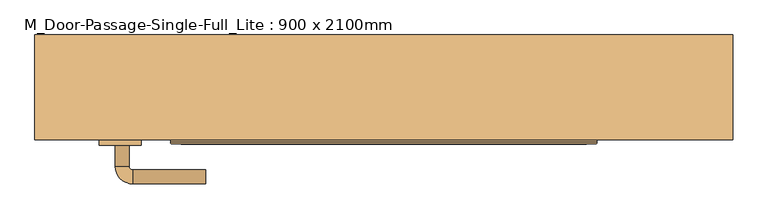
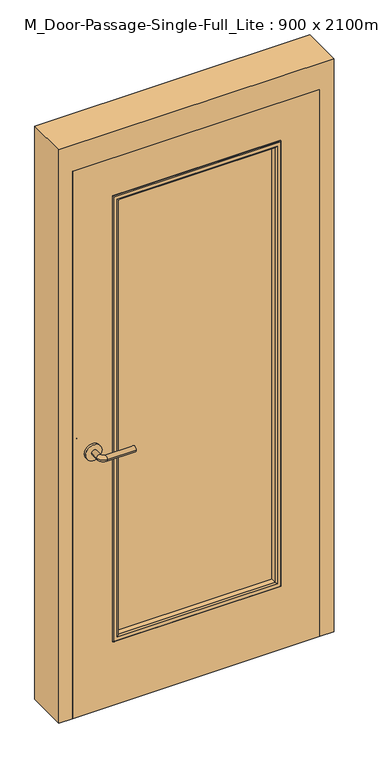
"""IFC4 building model written with IfcOpenShell, lengths in millimetres: door geometry, M_Door-Passage-Single-Full_Lite : 900 x 2100mm."""

from ifc_helpers import new_model, si_unit, point, frame, frame_2d, origin, place, context, project, spatial, polyline, circle_curve, ellipse_curve, trimmed, segment, composite_curve, outline, extrude, faceted_brep, source, transform, mapped, element, save
from ifc_brep_helpers import plane_surface, cylinder_surface, revolved_surface, advanced_brep


def m_door_passage_single_full_lite_900_x_2100mm_803eef12(model_context):
    return source(origin(), model_context, "Body", "SolidModel", [
        advanced_brep(
        [(-384.990625, 26.65, 1000.0), (-364.990625, 26.65, 1000.0), (-384.990625, 56.65, 1000.0), (-364.990625, 56.65, 1000.0), (-359.990625, 61.65, 1000.0), (-359.990625, 81.65, 1000.0), (-254.990625, 81.65, 1000.0), (-254.990625, 61.65, 1000.0)],
        [
            (0, 1, circle_curve(frame((-374.990625, 26.65, 1000.0), z_axis=(0.0, -1.0, 0.0), x_axis=(1.0, 0.0, 0.0)), 10.0)),
            (1, 0, circle_curve(frame((-374.990625, 26.65, 1000.0), z_axis=(0.0, -1.0, 0.0), x_axis=(1.0, 0.0, 0.0)), 10.0)),
            (0, 2),
            (2, 3, circle_curve(frame((-374.990625, 56.65, 1000.0), z_axis=(0.0, -1.0, 0.0), x_axis=(1.0, 0.0, 0.0)), 10.0)),
            (3, 1),
            (3, 2, circle_curve(frame((-374.990625, 56.65, 1000.0), z_axis=(0.0, -1.0, 0.0), x_axis=(1.0, 0.0, 0.0)), 10.0)),
            (4, 3, circle_curve(frame((-359.990625, 56.65, 1000.0), z_axis=(0.0, 0.0, 1.0), x_axis=(-1.0, 0.0, 0.0)), 5.0)),
            (2, 5, circle_curve(frame((-359.990625, 56.65, 1000.0), z_axis=(0.0, 0.0, -1.0), x_axis=(-1.0, 0.0, 0.0)), 25.0)),
            (5, 4, circle_curve(frame((-359.990625, 71.65, 1000.0), z_axis=(-1.0, 0.0, 0.0), x_axis=(0.0, -1.0, 0.0)), 10.0)),
            (4, 5, circle_curve(frame((-359.990625, 71.65, 1000.0), z_axis=(-1.0, 0.0, 0.0), x_axis=(0.0, -1.0, 0.0)), 10.0)),
            (6, 7, circle_curve(frame((-254.990625, 71.65, 1000.0), z_axis=(1.0, 0.0, 0.0), x_axis=(0.0, -1.0, 0.0)), 10.0)),
            (7, 6, circle_curve(frame((-254.990625, 71.65, 1000.0), z_axis=(1.0, 0.0, 0.0), x_axis=(0.0, -1.0, 0.0)), 10.0)),
            (5, 6),
            (7, 4),
        ],
        [
            plane_surface(frame((-374.990625, 26.65, 1000.0), z_axis=(0.0, -1.0, 0.0), x_axis=(0.0, 0.0, 1.0))),
            cylinder_surface(frame((-374.990625, 26.65, 1000.0), z_axis=(0.0, -1.0, 0.0), x_axis=(1.0, 0.0, 0.0)), 10.0),
            revolved_surface(trimmed(ellipse_curve(frame((-374.990625, 56.65, 1000.0), z_axis=(0.0, -1.0, 0.0), x_axis=(1.0, 0.0, 0.0)), 10.0, 10.0), [point((-384.990625, 56.65, 1000.0))], [point((-364.990625, 56.65, 1000.0))], True, "CARTESIAN"), (-359.990625, 56.65, 1000.0), (0.0, 0.0, -1.0)),
            revolved_surface(trimmed(ellipse_curve(frame((-374.990625, 56.65, 1000.0), z_axis=(0.0, -1.0, 0.0), x_axis=(1.0, 0.0, 0.0)), 10.0, 10.0), [point((-364.990625, 56.65, 1000.0))], [point((-384.990625, 56.65, 1000.0))], True, "CARTESIAN"), (-359.990625, 56.65, 1000.0), (0.0, 0.0, -1.0)),
            plane_surface(frame((-254.990625, 71.65, 1000.0), z_axis=(1.0, 0.0, 0.0), x_axis=(0.0, 0.0, 1.0))),
            cylinder_surface(frame((-359.990625, 71.65, 1000.0), z_axis=(-1.0, 0.0, 0.0), x_axis=(0.0, -1.0, 0.0)), 10.0),
        ],
        [
            (0, [[1, 2]]),
            (1, [[-1, 3, 4, 5]]),
            (1, [[-2, -5, 6, -3]]),
            (2, [[7, -4, 8, 9]]),
            (3, [[-8, -6, -7, 10]]),
            (4, [[11, 12]]),
            (5, [[-9, 13, -12, 14]]),
            (5, [[-10, -14, -11, -13]]),
        ],
    ),
        extrude(outline(composite_curve([segment(trimmed(circle_curve(frame_2d((1000.0, -377.490625)), 30.0), [point((1000.0, -407.490625))], [point((1000.0, -347.490625))], False, "CARTESIAN"), True, "CONTINUOUS"), segment(trimmed(circle_curve(frame_2d((1000.0, -377.490625)), 30.0), [point((1000.0, -347.490625))], [point((1000.0, -407.490625))], False, "CARTESIAN"), True, "CONTINUOUS")], self_intersect=False)), frame((0.0, 18.65, 0.0), z_axis=(0.0, 1.0, 0.0), x_axis=(0.0, 0.0, 1.0)), (0.0, 0.0, 1.0), 8.0),
        advanced_brep(
        [(-384.990625, -34.35, 1000.0), (-364.990625, -34.35, 1000.0), (-364.990625, -64.35, 1000.0), (-384.990625, -64.35, 1000.0), (-359.990625, -69.35, 1000.0), (-359.990625, -89.35, 1000.0), (-254.990625, -89.35, 1000.0), (-254.990625, -69.35, 1000.0)],
        [
            (0, 1, circle_curve(frame((-374.990625, -34.35, 1000.0), z_axis=(0.0, 1.0, 0.0), x_axis=(1.0, 0.0, 0.0)), 10.0)),
            (1, 0, circle_curve(frame((-374.990625, -34.35, 1000.0), z_axis=(0.0, 1.0, 0.0), x_axis=(1.0, 0.0, 0.0)), 10.0)),
            (1, 2),
            (2, 3, circle_curve(frame((-374.990625, -64.35, 1000.0), z_axis=(0.0, 1.0, 0.0), x_axis=(1.0, 0.0, 0.0)), 10.0)),
            (3, 0),
            (3, 2, circle_curve(frame((-374.990625, -64.35, 1000.0), z_axis=(0.0, 1.0, 0.0), x_axis=(1.0, 0.0, 0.0)), 10.0)),
            (4, 5, circle_curve(frame((-359.990625, -79.35, 1000.0), z_axis=(-1.0, 0.0, 0.0), x_axis=(0.0, 1.0, 0.0)), 10.0)),
            (5, 3, circle_curve(frame((-359.990625, -64.35, 1000.0), z_axis=(0.0, 0.0, -1.0), x_axis=(-1.0, 0.0, 0.0)), 25.0)),
            (2, 4, circle_curve(frame((-359.990625, -64.35, 1000.0), z_axis=(0.0, 0.0, 1.0), x_axis=(-1.0, 0.0, 0.0)), 5.0)),
            (5, 4, circle_curve(frame((-359.990625, -79.35, 1000.0), z_axis=(-1.0, 0.0, 0.0), x_axis=(0.0, 1.0, 0.0)), 10.0)),
            (6, 7, circle_curve(frame((-254.990625, -79.35, 1000.0), z_axis=(1.0, 0.0, 0.0), x_axis=(0.0, 1.0, 0.0)), 10.0)),
            (7, 6, circle_curve(frame((-254.990625, -79.35, 1000.0), z_axis=(1.0, 0.0, 0.0), x_axis=(0.0, 1.0, 0.0)), 10.0)),
            (4, 7),
            (6, 5),
        ],
        [
            plane_surface(frame((-374.990625, -34.35, 1000.0), z_axis=(0.0, 1.0, 0.0), x_axis=(0.0, 0.0, 1.0))),
            cylinder_surface(frame((-374.990625, -34.35, 1000.0), z_axis=(0.0, 1.0, 0.0), x_axis=(1.0, 0.0, 0.0)), 10.0),
            revolved_surface(trimmed(ellipse_curve(frame((-374.990625, -64.35, 1000.0), z_axis=(0.0, -1.0, 0.0), x_axis=(1.0, 0.0, 0.0)), 10.0, 10.0), [point((-384.990625, -64.35, 1000.0))], [point((-364.990625, -64.35, 1000.0))], True, "CARTESIAN"), (-359.990625, -64.35, 1000.0), (0.0, 0.0, -1.0)),
            revolved_surface(trimmed(ellipse_curve(frame((-374.990625, -64.35, 1000.0), z_axis=(0.0, -1.0, 0.0), x_axis=(1.0, 0.0, 0.0)), 10.0, 10.0), [point((-364.990625, -64.35, 1000.0))], [point((-384.990625, -64.35, 1000.0))], True, "CARTESIAN"), (-359.990625, -64.35, 1000.0), (0.0, 0.0, -1.0)),
            plane_surface(frame((-254.990625, -79.35, 1000.0), z_axis=(1.0, 0.0, 0.0), x_axis=(0.0, 0.0, 1.0))),
            cylinder_surface(frame((-359.990625, -79.35, 1000.0), z_axis=(-1.0, 0.0, 0.0), x_axis=(0.0, 1.0, 0.0)), 10.0),
        ],
        [
            (0, [[1, 2]]),
            (1, [[3, 4, 5, -2]]),
            (1, [[-5, 6, -3, -1]]),
            (2, [[7, 8, -4, 9]]),
            (3, [[10, -9, -6, -8]]),
            (4, [[11, 12]]),
            (5, [[13, -11, 14, -7]]),
            (5, [[-14, -12, -13, -10]]),
        ],
    ),
        extrude(outline(composite_curve([segment(trimmed(circle_curve(frame_2d((1000.0, -377.490625)), 30.0), [point((1000.0, -407.490625))], [point((1000.0, -347.490625))], False, "CARTESIAN"), True, "CONTINUOUS"), segment(trimmed(circle_curve(frame_2d((1000.0, -377.490625)), 30.0), [point((1000.0, -347.490625))], [point((1000.0, -407.490625))], False, "CARTESIAN"), True, "CONTINUOUS")], self_intersect=False)), frame((0.0, -34.35, 0.0), z_axis=(0.0, 1.0, 0.0), x_axis=(0.0, 0.0, 1.0)), (0.0, 0.0, 1.0), 8.0),
        extrude(outline(polyline([(297.6, -1.35), (297.6, -6.35), (-297.6, -6.35), (-297.6, -1.35), (297.6, -1.35)])), frame((0.0, 0.0, 254.0), z_axis=(0.0, 0.0, 1.0), x_axis=(1.0, 0.0, 0.0)), (0.0, 0.0, 1.0), 1693.6),
        faceted_brep([(450.0, 23.4125, 0.0), (434.125, 23.4125, 0.0), (434.125, 74.4375, 0.0), (450.0, 74.4375, 0.0), (450.0, 123.65, 0.0), (500.0, 123.65, 0.0), (500.0, -26.35, 0.0), (450.0, -26.35, 0.0), (450.0, -26.35, 2100.0), (450.0, 23.4125, 2100.0), (500.0, -26.35, 2200.0), (-500.0, -26.35, 2200.0), (-500.0, -26.35, 0.0), (-450.0, -26.35, 0.0), (-450.0, -26.35, 2100.0), (500.0, 123.65, 2200.0), (450.0, 123.65, 2100.0), (-450.0, 123.65, 2100.0), (-450.0, 123.65, 0.0), (-500.0, 123.65, 0.0), (-500.0, 123.65, 2200.0), (450.0, 74.4375, 2100.0), (434.125, 74.4375, 2084.125), (-434.125, 74.4375, 2084.125), (-434.125, 74.4375, 0.0), (-450.0, 74.4375, 0.0), (-450.0, 74.4375, 2100.0), (434.125, 23.4125, 2084.125), (-450.0, 23.4125, 2100.0), (-450.0, 23.4125, 0.0), (-434.125, 23.4125, 0.0), (-434.125, 23.4125, 2084.125)], [[[0, 1, 2, 3, 4, 5, 6, 7]], [[7, 8, 9, 0]], [[6, 10, 11, 12, 13, 14, 8, 7]], [[5, 15, 10, 6]], [[4, 16, 17, 18, 19, 20, 15, 5]], [[3, 21, 16, 4]], [[2, 22, 23, 24, 25, 26, 21, 3]], [[1, 27, 22, 2]], [[0, 9, 28, 29, 30, 31, 27, 1]], [[8, 14, 28, 9]], [[16, 21, 26, 17]], [[22, 27, 31, 23]], [[12, 19, 18, 25, 24, 30, 29, 13]], [[13, 29, 28, 14]], [[11, 20, 19, 12]], [[17, 26, 25, 18]], [[23, 31, 30, 24]], [[15, 20, 11, 10]]]),
        extrude(outline(polyline([(2100.0, -450.0), (0.0, -450.0), (0.0, 450.0), (2100.0, 450.0), (2100.0, -450.0)]), holes=[polyline([(1947.6, -297.6), (1947.6, 297.6), (254.0, 297.6), (254.0, -297.6), (1947.6, -297.6)])]), frame((0.0, -26.35, 0.0), z_axis=(0.0, 1.0, 0.0), x_axis=(0.0, 0.0, 1.0)), (0.0, 0.0, 1.0), 45.0),
        advanced_brep(
        [(-297.6, -6.35, 1947.6), (-297.6, -6.35, 254.0), (-297.6, -26.35, 254.0), (-297.6, -26.35, 1947.6), (-285.6, -27.35, 1935.6), (-285.6, -27.35, 266.0), (-285.6, -6.35, 266.0), (-285.6, -6.35, 1935.6), (-290.6, -32.35, 1940.6), (-290.6, -32.35, 261.0), (-305.6, -30.35, 1955.6), (-305.6, -30.35, 246.0), (-303.6, -32.35, 248.0), (-303.6, -32.35, 1953.6), (-305.6, -26.35, 1955.6), (-305.6, -26.35, 246.0), (297.6, -6.35, 254.0), (297.6, -26.35, 254.0), (285.6, -27.35, 266.0), (285.6, -6.35, 266.0), (290.6, -32.35, 261.0), (305.6, -30.35, 246.0), (303.6, -32.35, 248.0), (305.6, -26.35, 246.0), (297.6, -6.35, 1947.6), (297.6, -26.35, 1947.6), (285.6, -27.35, 1935.6), (285.6, -6.35, 1935.6), (290.6, -32.35, 1940.6), (305.6, -30.35, 1955.6), (303.6, -32.35, 1953.6), (305.6, -26.35, 1955.6)],
        [
            (0, 1),
            (1, 2),
            (2, 3),
            (3, 0),
            (4, 5),
            (5, 6),
            (6, 7),
            (7, 4),
            (8, 9),
            (9, 5, ellipse_curve(frame((-290.6, -27.35, 261.0), z_axis=(-0.7071067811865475, 0.0, 0.7071067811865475), x_axis=(0.7071067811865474, 0.0, 0.7071067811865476)), 7.0710678, 5.0)),
            (4, 8, ellipse_curve(frame((-290.6, -27.35, 1940.6), z_axis=(-0.7071067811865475, 0.0, -0.7071067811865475), x_axis=(-0.7071067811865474, 0.0, 0.7071067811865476)), 7.0710678, 5.0)),
            (10, 11),
            (11, 12, ellipse_curve(frame((-303.6, -30.35, 248.0), z_axis=(-0.7071067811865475, 0.0, 0.7071067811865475), x_axis=(0.7071067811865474, 0.0, 0.7071067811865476)), 2.8284271, 2.0)),
            (12, 13),
            (13, 10, ellipse_curve(frame((-303.6, -30.35, 1953.6), z_axis=(-0.7071067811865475, 0.0, -0.7071067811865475), x_axis=(-0.7071067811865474, 0.0, 0.7071067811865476)), 2.8284271, 2.0)),
            (14, 15),
            (15, 11),
            (10, 14),
            (1, 16),
            (16, 17),
            (17, 2),
            (5, 18),
            (18, 19),
            (19, 6),
            (9, 20),
            (20, 18, ellipse_curve(frame((290.6, -27.35, 261.0), z_axis=(-0.7071067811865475, 0.0, -0.7071067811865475), x_axis=(-0.7071067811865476, 0.0, 0.7071067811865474)), 7.0710678, 5.0)),
            (11, 21),
            (21, 22, ellipse_curve(frame((303.6, -30.35, 248.0), z_axis=(-0.7071067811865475, 0.0, -0.7071067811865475), x_axis=(-0.7071067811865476, 0.0, 0.7071067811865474)), 2.8284271, 2.0)),
            (22, 12),
            (15, 23),
            (23, 21),
            (16, 24),
            (24, 25),
            (25, 17),
            (18, 26),
            (26, 27),
            (27, 19),
            (20, 28),
            (28, 26, ellipse_curve(frame((290.6, -27.35, 1940.6), z_axis=(0.7071067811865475, 0.0, -0.7071067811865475), x_axis=(-0.7071067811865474, 0.0, -0.7071067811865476)), 7.0710678, 5.0)),
            (21, 29),
            (29, 30, ellipse_curve(frame((303.6, -30.35, 1953.6), z_axis=(0.7071067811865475, 0.0, -0.7071067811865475), x_axis=(-0.7071067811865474, 0.0, -0.7071067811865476)), 2.8284271, 2.0)),
            (30, 22),
            (23, 31),
            (31, 29),
            (14, 31),
            (25, 3),
            (24, 0),
            (27, 7),
            (26, 4),
            (28, 8),
            (30, 13),
            (29, 10),
        ],
        [
            plane_surface(frame((-297.6, -26.35, 1947.6), z_axis=(-1.0, 0.0, 0.0), x_axis=(0.0, 0.0, -1.0))),
            plane_surface(frame((-285.6, -6.35, 1935.6), z_axis=(1.0, 0.0, 0.0), x_axis=(0.0, 0.0, -1.0))),
            cylinder_surface(frame((-290.6, -27.35, 1947.6), z_axis=(0.0, 0.0, 1.0), x_axis=(-1.0, 0.0, 0.0)), 5.0),
            cylinder_surface(frame((-303.6, -30.35, 1947.6), z_axis=(0.0, 0.0, 1.0), x_axis=(-1.0, 0.0, 0.0)), 2.0),
            plane_surface(frame((-305.6, -30.35, 1955.6), z_axis=(-1.0, 0.0, 0.0), x_axis=(0.0, 0.0, -1.0))),
            plane_surface(frame((-297.6, -26.35, 254.0), z_axis=(0.0, 0.0, -1.0), x_axis=(1.0, 0.0, 0.0))),
            plane_surface(frame((-285.6, -6.35, 266.0), z_axis=(0.0, 0.0, 1.0), x_axis=(1.0, 0.0, 0.0))),
            cylinder_surface(frame((-297.6, -27.35, 261.0), z_axis=(-1.0, 0.0, 0.0), x_axis=(0.0, 0.0, -1.0)), 5.0),
            cylinder_surface(frame((-297.6, -30.35, 248.0), z_axis=(-1.0, 0.0, 0.0), x_axis=(0.0, 0.0, -1.0)), 2.0),
            plane_surface(frame((-305.6, -30.35, 246.0), z_axis=(0.0, 0.0, -1.0), x_axis=(1.0, 0.0, 0.0))),
            plane_surface(frame((297.6, -26.35, 254.0), z_axis=(1.0, 0.0, 0.0), x_axis=(0.0, 0.0, 1.0))),
            plane_surface(frame((285.6, -6.35, 266.0), z_axis=(-1.0, 0.0, 0.0), x_axis=(0.0, 0.0, 1.0))),
            cylinder_surface(frame((290.6, -27.35, 254.0), z_axis=(0.0, 0.0, -1.0), x_axis=(1.0, 0.0, 0.0)), 5.0),
            cylinder_surface(frame((303.6, -30.35, 254.0), z_axis=(0.0, 0.0, -1.0), x_axis=(1.0, 0.0, 0.0)), 2.0),
            plane_surface(frame((305.6, -30.35, 246.0), z_axis=(1.0, 0.0, 0.0), x_axis=(0.0, 0.0, 1.0))),
            plane_surface(frame((305.6, -26.35, 1955.6), z_axis=(0.0, 1.0, 0.0), x_axis=(-1.0, 0.0, 0.0))),
            plane_surface(frame((297.6, -26.35, 1947.6), z_axis=(0.0, 0.0, 1.0), x_axis=(-1.0, 0.0, 0.0))),
            plane_surface(frame((297.6, -6.35, 1947.6), z_axis=(0.0, 1.0, 0.0), x_axis=(-1.0, 0.0, 0.0))),
            plane_surface(frame((285.6, -6.35, 1935.6), z_axis=(0.0, 0.0, -1.0), x_axis=(-1.0, 0.0, 0.0))),
            cylinder_surface(frame((297.6, -27.35, 1940.6), z_axis=(1.0, 0.0, 0.0), x_axis=(0.0, 0.0, 1.0)), 5.0),
            plane_surface(frame((290.6, -32.35, 1940.6), z_axis=(0.0, -1.0, 0.0), x_axis=(-1.0, 0.0, 0.0))),
            cylinder_surface(frame((297.6, -30.35, 1953.6), z_axis=(1.0, 0.0, 0.0), x_axis=(0.0, 0.0, 1.0)), 2.0),
            plane_surface(frame((305.6, -30.35, 1955.6), z_axis=(0.0, 0.0, 1.0), x_axis=(-1.0, 0.0, 0.0))),
        ],
        [
            (0, [[1, 2, 3, 4]]),
            (1, [[5, 6, 7, 8]]),
            (2, [[9, 10, -5, 11]]),
            (3, [[12, 13, 14, 15]]),
            (4, [[16, 17, -12, 18]]),
            (5, [[19, 20, 21, -2]]),
            (6, [[22, 23, 24, -6]]),
            (7, [[25, 26, -22, -10]]),
            (8, [[27, 28, 29, -13]]),
            (9, [[30, 31, -27, -17]]),
            (10, [[32, 33, 34, -20]]),
            (11, [[35, 36, 37, -23]]),
            (12, [[38, 39, -35, -26]]),
            (13, [[40, 41, 42, -28]]),
            (14, [[43, 44, -40, -31]]),
            (15, [[-16, 45, -43, -30], [-3, -21, -34, 46]]),
            (16, [[47, -4, -46, -33]]),
            (17, [[-1, -47, -32, -19], [-7, -24, -37, 48]]),
            (18, [[49, -8, -48, -36]]),
            (19, [[50, -11, -49, -39]]),
            (20, [[-14, -29, -42, 51], [-9, -50, -38, -25]]),
            (21, [[52, -15, -51, -41]]),
            (22, [[-45, -18, -52, -44]]),
        ],
    ),
        advanced_brep(
        [(-297.6, -1.35, 254.0), (-297.6, -1.35, 1947.6), (-297.6, 18.65, 1947.6), (-297.6, 18.65, 254.0), (-285.6, 19.65, 266.0), (-285.6, 19.65, 1935.6), (-285.6, -1.35, 1935.6), (-285.6, -1.35, 266.0), (-290.6, 24.65, 261.0), (-290.6, 24.65, 1940.6), (-305.6, 22.65, 246.0), (-305.6, 22.65, 1955.6), (-303.6, 24.65, 1953.6), (-303.6, 24.65, 248.0), (-305.6, 18.65, 246.0), (-305.6, 18.65, 1955.6), (297.6, -1.35, 1947.6), (297.6, 18.65, 1947.6), (285.6, 19.65, 1935.6), (285.6, -1.35, 1935.6), (290.6, 24.65, 1940.6), (305.6, 22.65, 1955.6), (303.6, 24.65, 1953.6), (305.6, 18.65, 1955.6), (297.6, -1.35, 254.0), (297.6, 18.65, 254.0), (285.6, 19.65, 266.0), (285.6, -1.35, 266.0), (290.6, 24.65, 261.0), (305.6, 22.65, 246.0), (303.6, 24.65, 248.0), (305.6, 18.65, 246.0)],
        [
            (0, 1),
            (1, 2),
            (2, 3),
            (3, 0),
            (4, 5),
            (5, 6),
            (6, 7),
            (7, 4),
            (8, 9),
            (9, 5, ellipse_curve(frame((-290.6, 19.65, 1940.6), z_axis=(-0.7071067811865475, 0.0, -0.7071067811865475), x_axis=(0.7071067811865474, 0.0, -0.7071067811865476)), 7.0710678, 5.0)),
            (4, 8, ellipse_curve(frame((-290.6, 19.65, 261.0), z_axis=(-0.7071067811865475, 0.0, 0.7071067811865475), x_axis=(-0.7071067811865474, 0.0, -0.7071067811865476)), 7.0710678, 5.0)),
            (10, 11),
            (11, 12, ellipse_curve(frame((-303.6, 22.65, 1953.6), z_axis=(-0.7071067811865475, 0.0, -0.7071067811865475), x_axis=(0.7071067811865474, 0.0, -0.7071067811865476)), 2.8284271, 2.0)),
            (12, 13),
            (13, 10, ellipse_curve(frame((-303.6, 22.65, 248.0), z_axis=(-0.7071067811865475, 0.0, 0.7071067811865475), x_axis=(-0.7071067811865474, 0.0, -0.7071067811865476)), 2.8284271, 2.0)),
            (14, 15),
            (15, 11),
            (10, 14),
            (1, 16),
            (16, 17),
            (17, 2),
            (5, 18),
            (18, 19),
            (19, 6),
            (9, 20),
            (20, 18, ellipse_curve(frame((290.6, 19.65, 1940.6), z_axis=(-0.7071067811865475, 0.0, 0.7071067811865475), x_axis=(-0.7071067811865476, 0.0, -0.7071067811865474)), 7.0710678, 5.0)),
            (11, 21),
            (21, 22, ellipse_curve(frame((303.6, 22.65, 1953.6), z_axis=(-0.7071067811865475, 0.0, 0.7071067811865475), x_axis=(-0.7071067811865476, 0.0, -0.7071067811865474)), 2.8284271, 2.0)),
            (22, 12),
            (15, 23),
            (23, 21),
            (16, 24),
            (24, 25),
            (25, 17),
            (18, 26),
            (26, 27),
            (27, 19),
            (20, 28),
            (28, 26, ellipse_curve(frame((290.6, 19.65, 261.0), z_axis=(0.7071067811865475, 0.0, 0.7071067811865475), x_axis=(-0.7071067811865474, 0.0, 0.7071067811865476)), 7.0710678, 5.0)),
            (21, 29),
            (29, 30, ellipse_curve(frame((303.6, 22.65, 248.0), z_axis=(0.7071067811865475, 0.0, 0.7071067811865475), x_axis=(-0.7071067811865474, 0.0, 0.7071067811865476)), 2.8284271, 2.0)),
            (30, 22),
            (23, 31),
            (31, 29),
            (14, 31),
            (25, 3),
            (24, 0),
            (27, 7),
            (26, 4),
            (28, 8),
            (30, 13),
            (29, 10),
        ],
        [
            plane_surface(frame((-297.6, 18.65, 254.0), z_axis=(-1.0, 0.0, 0.0), x_axis=(0.0, 0.0, 1.0))),
            plane_surface(frame((-285.6, -1.35, 266.0), z_axis=(1.0, 0.0, 0.0), x_axis=(0.0, 0.0, 1.0))),
            cylinder_surface(frame((-290.6, 19.65, 254.0), z_axis=(0.0, 0.0, -1.0), x_axis=(-1.0, 0.0, 0.0)), 5.0),
            cylinder_surface(frame((-303.6, 22.65, 254.0), z_axis=(0.0, 0.0, -1.0), x_axis=(-1.0, 0.0, 0.0)), 2.0),
            plane_surface(frame((-305.6, 22.65, 246.0), z_axis=(-1.0, 0.0, 0.0), x_axis=(0.0, 0.0, 1.0))),
            plane_surface(frame((-297.6, 18.65, 1947.6), z_axis=(0.0, 0.0, 1.0), x_axis=(1.0, 0.0, 0.0))),
            plane_surface(frame((-285.6, -1.35, 1935.6), z_axis=(0.0, 0.0, -1.0), x_axis=(1.0, 0.0, 0.0))),
            cylinder_surface(frame((-297.6, 19.65, 1940.6), z_axis=(-1.0, 0.0, 0.0), x_axis=(0.0, 0.0, 1.0)), 5.0),
            cylinder_surface(frame((-297.6, 22.65, 1953.6), z_axis=(-1.0, 0.0, 0.0), x_axis=(0.0, 0.0, 1.0)), 2.0),
            plane_surface(frame((-305.6, 22.65, 1955.6), z_axis=(0.0, 0.0, 1.0), x_axis=(1.0, 0.0, 0.0))),
            plane_surface(frame((297.6, 18.65, 1947.6), z_axis=(1.0, 0.0, 0.0), x_axis=(0.0, 0.0, -1.0))),
            plane_surface(frame((285.6, -1.35, 1935.6), z_axis=(-1.0, 0.0, 0.0), x_axis=(0.0, 0.0, -1.0))),
            cylinder_surface(frame((290.6, 19.65, 1947.6), z_axis=(0.0, 0.0, 1.0), x_axis=(1.0, 0.0, 0.0)), 5.0),
            cylinder_surface(frame((303.6, 22.65, 1947.6), z_axis=(0.0, 0.0, 1.0), x_axis=(1.0, 0.0, 0.0)), 2.0),
            plane_surface(frame((305.6, 22.65, 1955.6), z_axis=(1.0, 0.0, 0.0), x_axis=(0.0, 0.0, -1.0))),
            plane_surface(frame((305.6, 18.65, 246.0), z_axis=(0.0, -1.0, 0.0), x_axis=(-1.0, 0.0, 0.0))),
            plane_surface(frame((297.6, 18.65, 254.0), z_axis=(0.0, 0.0, -1.0), x_axis=(-1.0, 0.0, 0.0))),
            plane_surface(frame((297.6, -1.35, 254.0), z_axis=(0.0, -1.0, 0.0), x_axis=(-1.0, 0.0, 0.0))),
            plane_surface(frame((285.6, -1.35, 266.0), z_axis=(0.0, 0.0, 1.0), x_axis=(-1.0, 0.0, 0.0))),
            cylinder_surface(frame((297.6, 19.65, 261.0), z_axis=(1.0, 0.0, 0.0), x_axis=(0.0, 0.0, -1.0)), 5.0),
            plane_surface(frame((290.6, 24.65, 261.0), z_axis=(0.0, 1.0, 0.0), x_axis=(-1.0, 0.0, 0.0))),
            cylinder_surface(frame((297.6, 22.65, 248.0), z_axis=(1.0, 0.0, 0.0), x_axis=(0.0, 0.0, -1.0)), 2.0),
            plane_surface(frame((305.6, 22.65, 246.0), z_axis=(0.0, 0.0, -1.0), x_axis=(-1.0, 0.0, 0.0))),
        ],
        [
            (0, [[1, 2, 3, 4]]),
            (1, [[5, 6, 7, 8]]),
            (2, [[9, 10, -5, 11]]),
            (3, [[12, 13, 14, 15]]),
            (4, [[16, 17, -12, 18]]),
            (5, [[19, 20, 21, -2]]),
            (6, [[22, 23, 24, -6]]),
            (7, [[25, 26, -22, -10]]),
            (8, [[27, 28, 29, -13]]),
            (9, [[30, 31, -27, -17]]),
            (10, [[32, 33, 34, -20]]),
            (11, [[35, 36, 37, -23]]),
            (12, [[38, 39, -35, -26]]),
            (13, [[40, 41, 42, -28]]),
            (14, [[43, 44, -40, -31]]),
            (15, [[-16, 45, -43, -30], [-3, -21, -34, 46]]),
            (16, [[47, -4, -46, -33]]),
            (17, [[-1, -47, -32, -19], [-7, -24, -37, 48]]),
            (18, [[49, -8, -48, -36]]),
            (19, [[50, -11, -49, -39]]),
            (20, [[-14, -29, -42, 51], [-9, -50, -38, -25]]),
            (21, [[52, -15, -51, -41]]),
            (22, [[-45, -18, -52, -44]]),
        ],
    ),
    ])


if __name__ == "__main__":
    model = new_model("IFC4")
    model_context = context("Model", 3, world=origin())
    ifc_project = project(units=[si_unit("LENGTHUNIT", "METRE", prefix="MILLI")], contexts=[model_context])
    site = spatial("IfcSite", under=ifc_project)
    building = spatial("IfcBuilding", under=site)
    placement = place(None, origin())
    m_door_passage_single_full_lite_900_x_2100mm_shape = m_door_passage_single_full_lite_900_x_2100mm_803eef12(model_context)
    element("IfcDoor", 1, ObjectType="M_Door-Passage-Single-Full_Lite : 900 x 2100mm", at=placement, inside=building, context=model_context, shape_type="MappedRepresentation", body=[
        mapped(m_door_passage_single_full_lite_900_x_2100mm_shape, transform((0.0, 0.0, 0.0), x_axis=(1.0, 0.0, 0.0), y_axis=(0.0, 1.0, 0.0), z_axis=(0.0, 0.0, 1.0))),
    ])
    save(model, "model.ifc")
